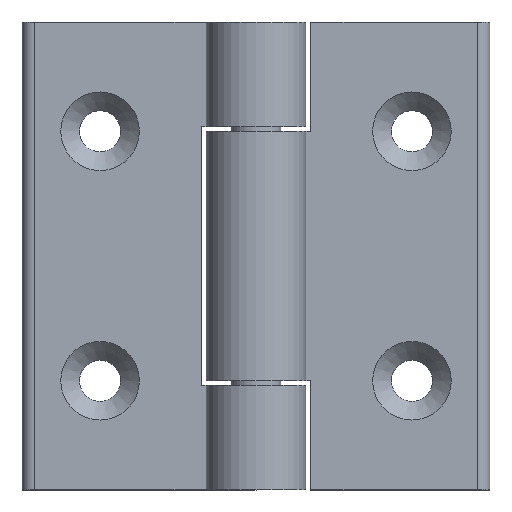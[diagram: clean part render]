
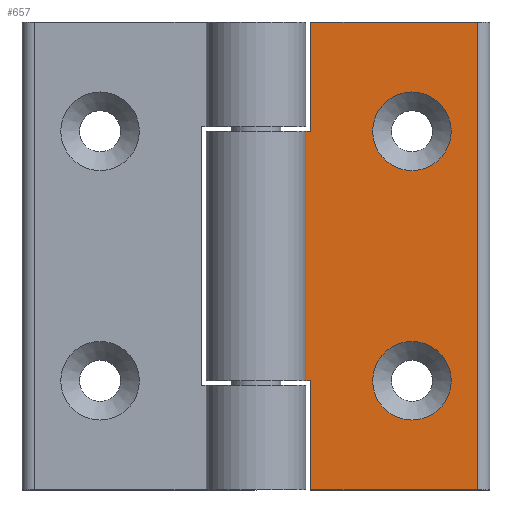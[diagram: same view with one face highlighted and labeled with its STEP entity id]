
A CAD part, top view. The second image highlights one B-rep face of the part: STEP entity #657.
In plain terms, the highlighted planar face has unit normal (0, 0, 1).
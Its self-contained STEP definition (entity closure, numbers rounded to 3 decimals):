
#67=LINE('',#1040,#120);
#69=LINE('',#1048,#122);
#70=LINE('',#1051,#123);
#71=LINE('',#1053,#124);
#72=LINE('',#1055,#125);
#73=LINE('',#1057,#126);
#74=LINE('',#1059,#127);
#75=LINE('',#1060,#128);
#120=VECTOR('',#832,1000.);
#122=VECTOR('',#840,1000.);
#123=VECTOR('',#841,1000.);
#124=VECTOR('',#842,1000.);
#125=VECTOR('',#843,1000.);
#126=VECTOR('',#844,1000.);
#127=VECTOR('',#845,1000.);
#128=VECTOR('',#846,1000.);
#181=ORIENTED_EDGE('',*,*,#345,.T.);
#182=ORIENTED_EDGE('',*,*,#346,.T.);
#183=ORIENTED_EDGE('',*,*,#347,.F.);
#184=ORIENTED_EDGE('',*,*,#348,.T.);
#185=ORIENTED_EDGE('',*,*,#349,.F.);
#186=ORIENTED_EDGE('',*,*,#350,.F.);
#187=ORIENTED_EDGE('',*,*,#351,.F.);
#188=ORIENTED_EDGE('',*,*,#352,.F.);
#189=ORIENTED_EDGE('',*,*,#343,.T.);
#190=ORIENTED_EDGE('',*,*,#353,.F.);
#343=EDGE_CURVE('',#425,#424,#67,.T.);
#345=EDGE_CURVE('',#426,#426,#478,.T.);
#346=EDGE_CURVE('',#427,#427,#479,.T.);
#347=EDGE_CURVE('',#428,#429,#69,.T.);
#348=EDGE_CURVE('',#428,#430,#70,.T.);
#349=EDGE_CURVE('',#431,#430,#71,.T.);
#350=EDGE_CURVE('',#432,#431,#72,.T.);
#351=EDGE_CURVE('',#433,#432,#73,.T.);
#352=EDGE_CURVE('',#425,#433,#74,.T.);
#353=EDGE_CURVE('',#429,#424,#75,.T.);
#424=VERTEX_POINT('',#1039);
#425=VERTEX_POINT('',#1041);
#426=VERTEX_POINT('',#1045);
#427=VERTEX_POINT('',#1047);
#428=VERTEX_POINT('',#1049);
#429=VERTEX_POINT('',#1050);
#430=VERTEX_POINT('',#1052);
#431=VERTEX_POINT('',#1054);
#432=VERTEX_POINT('',#1056);
#433=VERTEX_POINT('',#1058);
#478=CIRCLE('',#740,6.3);
#479=CIRCLE('',#741,6.3);
#509=EDGE_LOOP('',(#181));
#510=EDGE_LOOP('',(#182));
#511=EDGE_LOOP('',(#183,#184,#185,#186,#187,#188,#189,#190));
#574=FACE_BOUND('',#509,.T.);
#575=FACE_BOUND('',#510,.T.);
#576=FACE_BOUND('',#511,.T.);
#636=PLANE('',#739);
#657=ADVANCED_FACE('',(#574,#575,#576),#636,.F.);
#739=AXIS2_PLACEMENT_3D('',#1043,#834,#835);
#740=AXIS2_PLACEMENT_3D('',#1044,#836,#837);
#741=AXIS2_PLACEMENT_3D('',#1046,#838,#839);
#832=DIRECTION('',(0.,-1.,0.));
#834=DIRECTION('',(0.,0.,-1.));
#835=DIRECTION('',(-1.,0.,0.));
#836=DIRECTION('',(0.,0.,-1.));
#837=DIRECTION('',(-1.,0.,0.));
#838=DIRECTION('',(0.,0.,-1.));
#839=DIRECTION('',(-1.,0.,0.));
#840=DIRECTION('',(0.,1.,0.));
#841=DIRECTION('',(1.,0.,0.));
#842=DIRECTION('',(0.,-1.,0.));
#843=DIRECTION('',(1.,0.,0.));
#844=DIRECTION('',(0.,1.,0.));
#845=DIRECTION('',(1.,0.,0.));
#846=DIRECTION('',(-1.,0.,0.));
#1039=CARTESIAN_POINT('',(8.,-20.,6.));
#1040=CARTESIAN_POINT('',(8.,37.5,6.));
#1041=CARTESIAN_POINT('',(8.,20.,6.));
#1043=CARTESIAN_POINT('',(8.,37.5,6.));
#1044=CARTESIAN_POINT('',(25.,-20.,6.));
#1045=CARTESIAN_POINT('',(18.7,-20.,6.));
#1046=CARTESIAN_POINT('',(25.,20.,6.));
#1047=CARTESIAN_POINT('',(18.7,20.,6.));
#1048=CARTESIAN_POINT('',(8.8,37.5,6.));
#1049=CARTESIAN_POINT('',(8.8,-37.5,6.));
#1050=CARTESIAN_POINT('',(8.8,-20.,6.));
#1051=CARTESIAN_POINT('',(8.,-37.5,6.));
#1052=CARTESIAN_POINT('',(35.5,-37.5,6.));
#1053=CARTESIAN_POINT('',(35.5,37.5,6.));
#1054=CARTESIAN_POINT('',(35.5,37.5,6.));
#1055=CARTESIAN_POINT('',(8.,37.5,6.));
#1056=CARTESIAN_POINT('',(8.8,37.5,6.));
#1057=CARTESIAN_POINT('',(8.8,37.5,6.));
#1058=CARTESIAN_POINT('',(8.8,20.,6.));
#1059=CARTESIAN_POINT('',(8.,20.,6.));
#1060=CARTESIAN_POINT('',(8.,-20.,6.));
